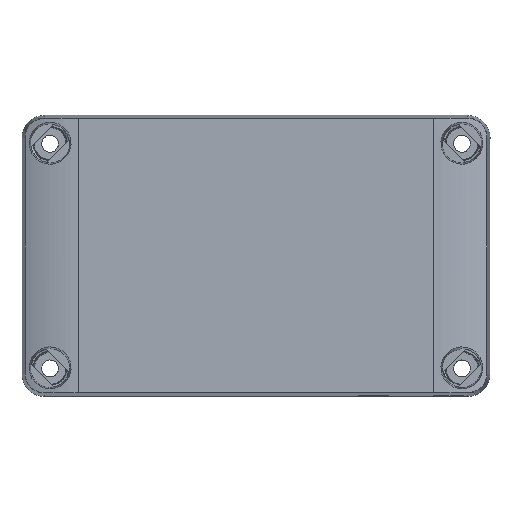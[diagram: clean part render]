
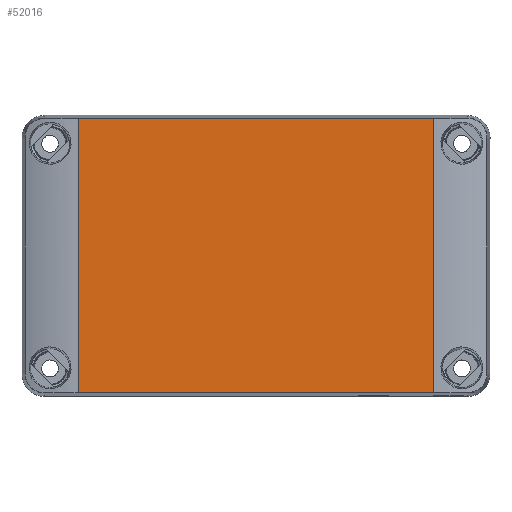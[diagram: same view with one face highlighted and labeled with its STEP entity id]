
A CAD part, top view. The second image highlights one B-rep face of the part: STEP entity #52016.
In plain terms, the highlighted planar face has unit normal (0, 0, 1).
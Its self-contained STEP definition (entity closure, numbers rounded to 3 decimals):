
#430 = CARTESIAN_POINT ( 'NONE',  ( -47.5, -37.5, 50. ) ) ;
#4126 = CARTESIAN_POINT ( 'NONE',  ( -47.5, 36.627, 50. ) ) ;
#4930 = CARTESIAN_POINT ( 'NONE',  ( 47.5, -36.627, 50. ) ) ;
#6597 = CARTESIAN_POINT ( 'NONE',  ( -47.5, -37.5, 50. ) ) ;
#15984 = LINE ( 'NONE', #41689, #30591 ) ;
#16253 = EDGE_LOOP ( 'NONE', ( #60669, #32598, #31763, #50907 ) ) ;
#22620 = DIRECTION ( 'NONE',  ( 0., -1., 0. ) ) ;
#23263 = DIRECTION ( 'NONE',  ( 0., 0., 1. ) ) ;
#28214 = EDGE_CURVE ( 'NONE', #67689, #49416, #15984, .T. ) ;
#28428 = EDGE_CURVE ( 'NONE', #49416, #33338, #67159, .T. ) ;
#29056 = EDGE_CURVE ( 'NONE', #33338, #68790, #67244, .T. ) ;
#29476 = EDGE_CURVE ( 'NONE', #68790, #67689, #39223, .T. ) ;
#30591 = VECTOR ( 'NONE', #47134, 1000. ) ;
#31763 = ORIENTED_EDGE ( 'NONE', *, *, #28214, .T. ) ;
#32598 = ORIENTED_EDGE ( 'NONE', *, *, #29476, .T. ) ;
#33338 = VERTEX_POINT ( 'NONE', #43962 ) ;
#36130 = CARTESIAN_POINT ( 'NONE',  ( -47.5, -36.627, 50. ) ) ;
#37378 = DIRECTION ( 'NONE',  ( 1., 0., 0. ) ) ;
#38042 = CARTESIAN_POINT ( 'NONE',  ( 47.5, 36.627, 50. ) ) ;
#38325 = VECTOR ( 'NONE', #58933, 1000. ) ;
#39223 = LINE ( 'NONE', #42703, #51975 ) ;
#41689 = CARTESIAN_POINT ( 'NONE',  ( 47.5, -37.5, 50. ) ) ;
#42703 = CARTESIAN_POINT ( 'NONE',  ( -47.5, -36.627, 50. ) ) ;
#43854 = FACE_OUTER_BOUND ( 'NONE', #16253, .T. ) ;
#43962 = CARTESIAN_POINT ( 'NONE',  ( -47.5, 36.627, 50. ) ) ;
#47134 = DIRECTION ( 'NONE',  ( 0., 1., 0. ) ) ;
#49416 = VERTEX_POINT ( 'NONE', #38042 ) ;
#50507 = PLANE ( 'NONE',  #54687 ) ;
#50907 = ORIENTED_EDGE ( 'NONE', *, *, #28428, .T. ) ;
#51180 = VECTOR ( 'NONE', #22620, 1000. ) ;
#51975 = VECTOR ( 'NONE', #37378, 1000. ) ;
#52016 = ADVANCED_FACE ( 'NONE', ( #43854 ), #50507, .T. ) ;
#54687 = AXIS2_PLACEMENT_3D ( 'NONE', #6597, #23263, #61385 ) ;
#58933 = DIRECTION ( 'NONE',  ( -1., 0., 0. ) ) ;
#60669 = ORIENTED_EDGE ( 'NONE', *, *, #29056, .T. ) ;
#61385 = DIRECTION ( 'NONE',  ( 1., 0., 0. ) ) ;
#67159 = LINE ( 'NONE', #4126, #38325 ) ;
#67244 = LINE ( 'NONE', #430, #51180 ) ;
#67689 = VERTEX_POINT ( 'NONE', #4930 ) ;
#68790 = VERTEX_POINT ( 'NONE', #36130 ) ;
